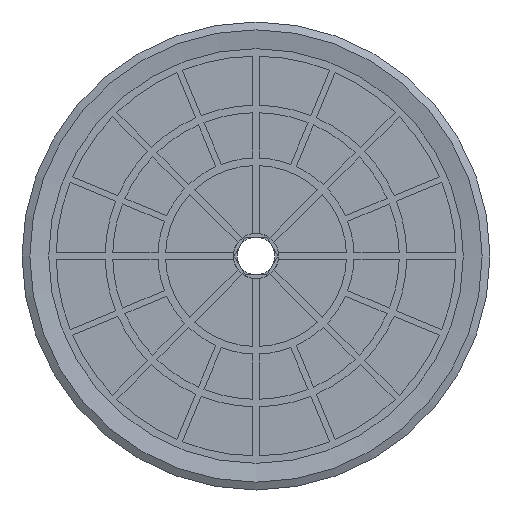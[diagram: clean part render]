
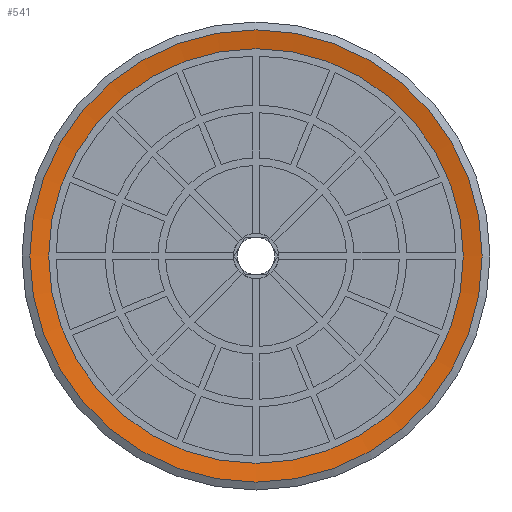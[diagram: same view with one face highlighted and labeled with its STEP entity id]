
A CAD part, front view. The second image highlights one B-rep face of the part: STEP entity #541.
In plain terms, the highlighted conical face has half-angle 80 degrees and reference radius 15 mm.
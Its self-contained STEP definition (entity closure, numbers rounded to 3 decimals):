
#541=ADVANCED_FACE('',(#1022,#1023),#1024,.F.);
#1022=FACE_BOUND('',#1778,.T.);
#1023=FACE_OUTER_BOUND('',#1779,.T.);
#1024=CONICAL_SURFACE('',#1780,15.0,1.396);
#1778=EDGE_LOOP('',(#3076));
#1779=EDGE_LOOP('',(#3077));
#1780=AXIS2_PLACEMENT_3D('',#3078,#3079,#3080);
#3076=ORIENTED_EDGE('',*,*,#5153,.T.);
#3077=ORIENTED_EDGE('',*,*,#5154,.F.);
#3078=CARTESIAN_POINT('',(0.0,0.,0.));
#3079=DIRECTION('',(0.0,0.,-1.0));
#3080=DIRECTION('',(0.0,1.0,0.));
#5153=EDGE_CURVE('',#6184,#6184,#6185,.T.);
#5154=EDGE_CURVE('',#6186,#6186,#6187,.T.);
#6184=VERTEX_POINT('',#7931);
#6185=CIRCLE('',#7932,13.75);
#6186=VERTEX_POINT('',#7933);
#6187=CIRCLE('',#7934,15.0);
#7931=CARTESIAN_POINT('',(0.0,-13.75,0.22));
#7932=AXIS2_PLACEMENT_3D('',#9454,#9455,#9456);
#7933=CARTESIAN_POINT('',(0.0,-15.0,0.));
#7934=AXIS2_PLACEMENT_3D('',#9457,#9458,#9459);
#9454=CARTESIAN_POINT('',(0.0,0.,0.22));
#9455=DIRECTION('',(0.0,0.,1.0));
#9456=DIRECTION('',(0.0,-1.0,0.));
#9457=CARTESIAN_POINT('',(0.0,0.,0.));
#9458=DIRECTION('',(0.0,0.,1.0));
#9459=DIRECTION('',(0.0,-1.0,0.));
